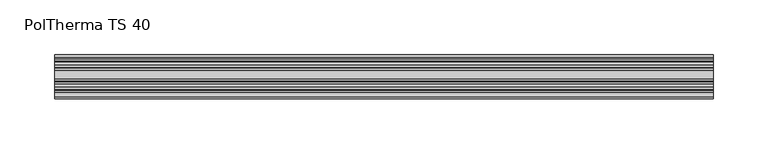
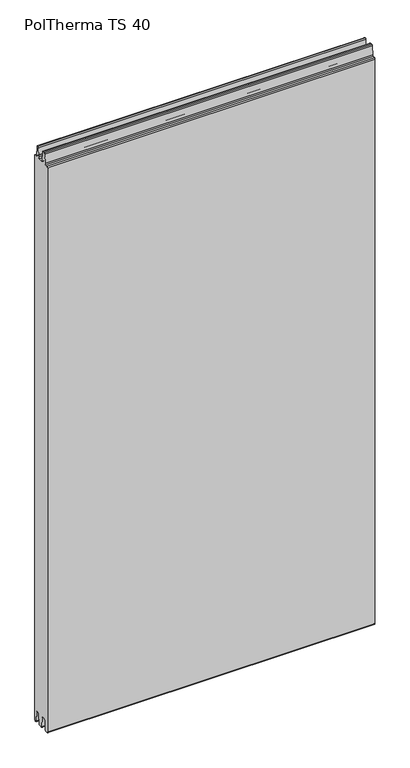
"""IFC4 building model written with IfcOpenShell, lengths in millimetres: plate geometry, Europanels_Poltherma TS_Hz : PolTherma TS 40."""

from ifc_helpers import new_model, si_unit, point, frame, frame_2d, origin, place, context, project, spatial, polyline, circle_curve, trimmed, segment, composite_curve, outline, extrude, source, transform, mapped, element, save


def poltherma_ts_40_79d9c480(model_context):
    return source(origin(), model_context, "Body", "SweptSolid", [
        extrude(outline(composite_curve([segment(trimmed(circle_curve(frame_2d((-9.1874198, 1117.5011047)), 2.0), [point((-11.1836192, 1117.624345))], [point((-9.1874198, 1119.5011047))], False, "CARTESIAN"), True, "CONTINUOUS"), segment(polyline([(-9.1874198, 1119.5011047), (-6.4480373, 1119.5011047)]), True, "CONTINUOUS"), segment(trimmed(circle_curve(frame_2d((-6.4480373, 1117.5011047)), 2.0), [point((-6.4480373, 1119.5011047))], [point((-4.4498501, 1117.5862394))], False, "CARTESIAN"), True, "CONTINUOUS"), segment(polyline([(-4.4498501, 1117.5862394), (-3.7101357, 1100.2244834)]), True, "CONTINUOUS"), segment(trimmed(circle_curve(frame_2d((-1.9117672, 1100.3011047)), 1.8), [point((-3.7101357, 1100.2244834))], [point((-1.9117672, 1098.5011047))], True, "CARTESIAN"), True, "CONTINUOUS"), segment(polyline([(-1.9117672, 1098.5011047), (6.113894, 1098.5011047)]), True, "CONTINUOUS"), segment(trimmed(circle_curve(frame_2d((6.113894, 1100.5011047)), 2.0), [point((6.113894, 1098.5011047))], [point((8.1120505, 1100.4152514))], True, "CARTESIAN"), True, "CONTINUOUS"), segment(polyline([(8.1120505, 1100.4152514), (8.8693289, 1117.5889644)]), True, "CONTINUOUS"), segment(trimmed(circle_curve(frame_2d((10.8984404, 1117.5046542)), 2.0308623), [point((8.8693289, 1117.5889644))], [point((11.1407625, 1119.5210078))], False, "CARTESIAN"), True, "CONTINUOUS"), segment(trimmed(circle_curve(frame_2d((11.1407625, 1117.4973942)), 2.0236135), [point((11.1407625, 1119.5210078))], [point((13.1604251, 1117.6237846))], False, "CARTESIAN"), True, "CONTINUOUS"), segment(polyline([(13.1604251, 1117.6237846), (14.2596673, 1100.3765791)]), True, "CONTINUOUS"), segment(trimmed(circle_curve(frame_2d((16.2557869, 1100.5011047)), 2.0), [point((14.2596673, 1100.3765791))], [point((16.2557869, 1098.5011047))], True, "CARTESIAN"), True, "CONTINUOUS"), segment(polyline([(16.2557869, 1098.5011047), (18.0, 1098.5011047)]), True, "CONTINUOUS"), segment(trimmed(circle_curve(frame_2d((18.0, 1096.5011047)), 2.0), [point((18.0, 1098.5011047))], [point((20.0, 1096.5011047))], False, "CARTESIAN"), True, "CONTINUOUS"), segment(polyline([(20.0, 1096.5011047), (20.0, 3.8074585)]), True, "CONTINUOUS"), segment(trimmed(circle_curve(frame_2d((17.6334587, 3.8074585)), 2.3665413), [point((20.0, 3.8074585))], [point((15.2703732, 3.6796133))], False, "CARTESIAN"), True, "CONTINUOUS"), segment(polyline([(15.2703732, 3.6796133), (14.3268153, 21.1203008)]), True, "CONTINUOUS"), segment(trimmed(circle_curve(frame_2d((11.0497759, 20.9430098)), 3.2818316), [point((14.3268153, 21.1203008))], [point((7.7733842, 21.1318916))], True, "CARTESIAN"), True, "CONTINUOUS"), segment(polyline([(7.7733842, 21.1318916), (6.7366349, 3.1481762)]), True, "CONTINUOUS"), segment(trimmed(circle_curve(frame_2d((4.9895357, 3.2488953)), 1.75), [point((6.7366349, 3.1481762))], [point((4.9895357, 1.4988953))], False, "CARTESIAN"), True, "CONTINUOUS"), segment(polyline([(4.9895357, 1.4988953), (-0.5507777, 1.4988953)]), True, "CONTINUOUS"), segment(trimmed(circle_curve(frame_2d((-0.5507777, 3.2988953)), 1.8), [point((-0.5507777, 1.4988953))], [point((-2.3477941, 3.1952985))], False, "CARTESIAN"), True, "CONTINUOUS"), segment(polyline([(-2.3477941, 3.1952985), (-3.3842966, 21.1747334)]), True, "CONTINUOUS"), segment(trimmed(circle_curve(frame_2d((-6.3793238, 21.0020721)), 3.0), [point((-3.3842966, 21.1747334))], [point((-6.3793238, 24.0020721))], True, "CARTESIAN"), True, "CONTINUOUS"), segment(polyline([(-6.3793238, 24.0020721), (-9.3209015, 24.0020721)]), True, "CONTINUOUS"), segment(trimmed(circle_curve(frame_2d((-9.3209015, 21.0020721)), 3.0), [point((-9.3209015, 24.0020721))], [point((-12.3165207, 21.1641379))], True, "CARTESIAN"), True, "CONTINUOUS"), segment(polyline([(-12.3165207, 21.1641379), (-13.2780726, 3.3908514)]), True, "CONTINUOUS"), segment(trimmed(circle_curve(frame_2d((-15.2751521, 3.4988953)), 2.0), [point((-13.2780726, 3.3908514))], [point((-15.2751521, 1.4988953))], False, "CARTESIAN"), True, "CONTINUOUS"), segment(polyline([(-15.2751521, 1.4988953), (-18.0, 1.4988953)]), True, "CONTINUOUS"), segment(trimmed(circle_curve(frame_2d((-18.0, 3.4988953)), 2.0), [point((-18.0, 1.4988953))], [point((-20.0, 3.4988953))], False, "CARTESIAN"), True, "CONTINUOUS"), segment(polyline([(-20.0, 3.4988953), (-20.0, 1096.5011047)]), True, "CONTINUOUS"), segment(trimmed(circle_curve(frame_2d((-18.0, 1096.5011047)), 2.0), [point((-20.0, 1096.5011047))], [point((-18.0, 1098.5011047))], False, "CARTESIAN"), True, "CONTINUOUS"), segment(polyline([(-18.0, 1098.5011047), (-14.244573, 1098.5011047)]), True, "CONTINUOUS"), segment(trimmed(circle_curve(frame_2d((-14.244573, 1100.5011047)), 2.0), [point((-14.244573, 1098.5011047))], [point((-12.2483736, 1100.3778643))], True, "CARTESIAN"), True, "CONTINUOUS"), segment(polyline([(-12.2483736, 1100.3778643), (-11.1836192, 1117.624345)]), True, "CONTINUOUS")], self_intersect=False)), frame((-300.0, 0.0, 0.0), z_axis=(1.0, 0.0, 0.0), x_axis=(0.0, 1.0, 0.0)), (0.0, 0.0, 1.0), 600.0),
    ])


if __name__ == "__main__":
    model = new_model("IFC4")
    model_context = context("Model", 3, world=origin())
    ifc_project = project(units=[si_unit("LENGTHUNIT", "METRE", prefix="MILLI")], contexts=[model_context])
    site = spatial("IfcSite", under=ifc_project)
    building = spatial("IfcBuilding", under=site)
    placement = place(None, origin())
    poltherma_ts_40_shape = poltherma_ts_40_79d9c480(model_context)
    element("IfcPlate", 1, ObjectType="Europanels_Poltherma TS_Hz : PolTherma TS 40", at=placement, inside=building, context=model_context, shape_type="MappedRepresentation", body=[
        mapped(poltherma_ts_40_shape, transform((0.0, 0.0, 0.0), x_axis=(1.0, 0.0, 0.0), y_axis=(0.0, 1.0, 0.0), z_axis=(0.0, 0.0, 1.0))),
    ])
    save(model, "model.ifc")
